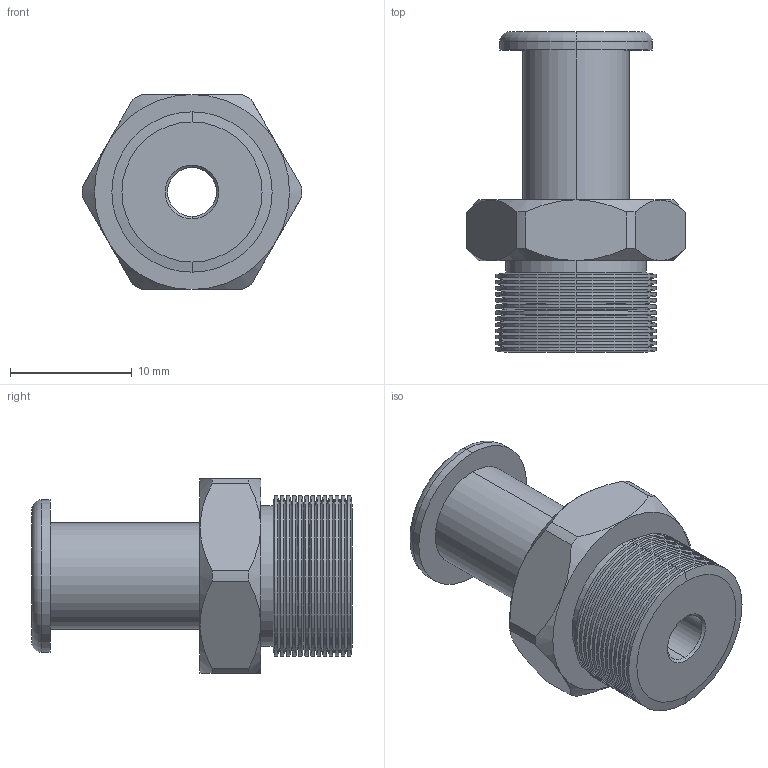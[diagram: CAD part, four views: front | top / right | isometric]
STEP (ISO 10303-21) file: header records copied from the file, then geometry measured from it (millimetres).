
FILE_DESCRIPTION (( 'STEP AP214' ), '1' );
FILE_NAME ('VM42-G14.STEP', '2022-11-18T05:41:00', ( '微软用户' ), ( '微软中国' ), 'SwSTEP 2.0', 'SolidWorks 2018', '' );
FILE_SCHEMA (( 'AUTOMOTIVE_DESIGN' ));
Length unit declared in the file: millimetre
Products named in the file (2): VM42-G14
Bounding box: 18 x 26.3 x 16 mm (x, y, z)
Volume: 2594.8 mm3; surface area: 2519.2 mm2
Topology: 1 solids, 1 shells, 125 faces, 260 edges, 140 vertices
Faces by surface type: cone 70, cylinder 42, plane 11, torus 2
Entity records: 3439 total; most frequent: CARTESIAN_POINT 695, DIRECTION 620, ORIENTED_EDGE 520, EDGE_CURVE 260, AXIS2_PLACEMENT_3D 257, VERTEX_POINT 140, CIRCLE 130, EDGE_LOOP 130
